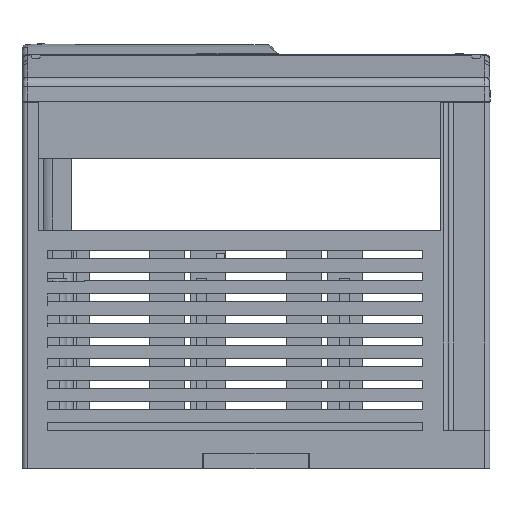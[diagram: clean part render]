
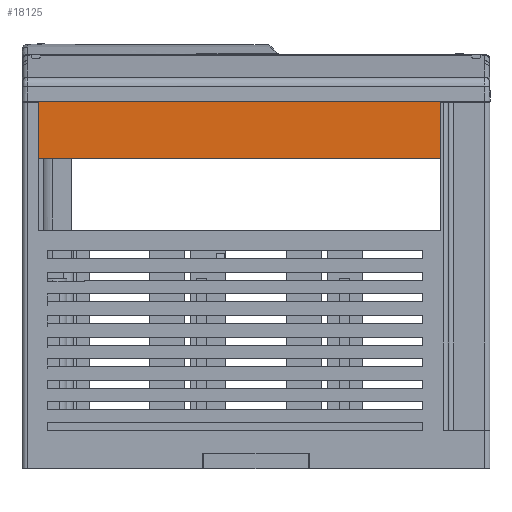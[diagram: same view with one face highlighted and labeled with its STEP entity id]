
A CAD part, front view. The second image highlights one B-rep face of the part: STEP entity #18125.
In plain terms, the highlighted planar face has unit normal (0, -1, 0).
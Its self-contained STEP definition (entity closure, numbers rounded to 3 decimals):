
#3198 = CARTESIAN_POINT ( 'NONE',  ( -85.3, -27., 32.8 ) ) ;
#3968 = CARTESIAN_POINT ( 'NONE',  ( 0., -27., 32.8 ) ) ;
#5209 = DIRECTION ( 'NONE',  ( 1., 0., 0. ) ) ;
#9082 = CARTESIAN_POINT ( 'NONE',  ( -5.6, -27., 14.126 ) ) ;
#9430 = LINE ( 'NONE', #34448, #40120 ) ;
#9844 = DIRECTION ( 'NONE',  ( 0., 0., -1. ) ) ;
#12245 = DIRECTION ( 'NONE',  ( 0., 1., 0. ) ) ;
#14720 = EDGE_CURVE ( 'NONE', #59505, #44620, #33339, .T. ) ;
#17488 = CARTESIAN_POINT ( 'NONE',  ( 78.7, -27., -4.5 ) ) ;
#18125 = ADVANCED_FACE ( 'NONE', ( #21823 ), #49663, .F. ) ;
#21823 = FACE_OUTER_BOUND ( 'NONE', #54233, .T. ) ;
#23029 = CARTESIAN_POINT ( 'NONE',  ( -5.6, -27., 32.8 ) ) ;
#23460 = CARTESIAN_POINT ( 'NONE',  ( 0., -27., 14.126 ) ) ;
#25481 = ORIENTED_EDGE ( 'NONE', *, *, #40169, .T. ) ;
#26086 = ORIENTED_EDGE ( 'NONE', *, *, #34079, .T. ) ;
#27491 = LINE ( 'NONE', #23460, #41677 ) ;
#28532 = VERTEX_POINT ( 'NONE', #23029 ) ;
#32721 = DIRECTION ( 'NONE',  ( 1., 0., 0. ) ) ;
#32877 = EDGE_CURVE ( 'NONE', #59505, #28532, #42616, .T. ) ;
#33339 = LINE ( 'NONE', #52200, #33714 ) ;
#33714 = VECTOR ( 'NONE', #9844, 1000. ) ;
#34079 = EDGE_CURVE ( 'NONE', #44620, #54189, #27491, .T. ) ;
#34448 = CARTESIAN_POINT ( 'NONE',  ( -5.6, -27., -4.5 ) ) ;
#40120 = VECTOR ( 'NONE', #53009, 1000. ) ;
#40169 = EDGE_CURVE ( 'NONE', #54189, #28532, #9430, .T. ) ;
#40958 = AXIS2_PLACEMENT_3D ( 'NONE', #17488, #12245, #41298 ) ;
#41298 = DIRECTION ( 'NONE',  ( 1., 0., 0. ) ) ;
#41677 = VECTOR ( 'NONE', #5209, 1000. ) ;
#42516 = VECTOR ( 'NONE', #32721, 1000. ) ;
#42616 = LINE ( 'NONE', #3968, #42516 ) ;
#44139 = ORIENTED_EDGE ( 'NONE', *, *, #32877, .F. ) ;
#44620 = VERTEX_POINT ( 'NONE', #59698 ) ;
#47189 = ORIENTED_EDGE ( 'NONE', *, *, #14720, .T. ) ;
#49663 = PLANE ( 'NONE',  #40958 ) ;
#52200 = CARTESIAN_POINT ( 'NONE',  ( -85.3, -27., -4.5 ) ) ;
#53009 = DIRECTION ( 'NONE',  ( 0., 0., 1. ) ) ;
#54189 = VERTEX_POINT ( 'NONE', #9082 ) ;
#54233 = EDGE_LOOP ( 'NONE', ( #47189, #26086, #25481, #44139 ) ) ;
#59505 = VERTEX_POINT ( 'NONE', #3198 ) ;
#59698 = CARTESIAN_POINT ( 'NONE',  ( -85.3, -27., 14.126 ) ) ;
